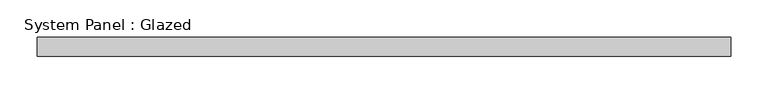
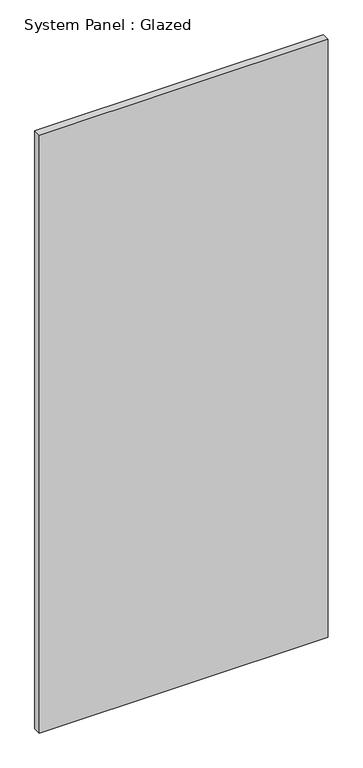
"""IFC4 building model written with IfcOpenShell, lengths in millimetres: plate geometry, System Panel : Glazed."""

from ifc_helpers import new_model, si_unit, origin, origin_with_axes, place, context, project, spatial, polyline, outline, extrude, source, transform, mapped, element, save


def system_panel_glazed_944eb72a(model_context):
    return source(origin(), model_context, "Body", "SweptSolid", [
        extrude(outline(polyline([(462.5, 24.5), (-462.5, 24.5), (-462.5, 49.5), (462.5, 49.5), (462.5, 24.5)])), origin_with_axes(), (0.0, 0.0, 1.0), 2025.0),
    ])


if __name__ == "__main__":
    model = new_model("IFC4")
    model_context = context("Model", 3, world=origin())
    ifc_project = project(units=[si_unit("LENGTHUNIT", "METRE", prefix="MILLI")], contexts=[model_context])
    site = spatial("IfcSite", under=ifc_project)
    building = spatial("IfcBuilding", under=site)
    placement = place(None, origin())
    system_panel_glazed_shape = system_panel_glazed_944eb72a(model_context)
    element("IfcPlate", 1, ObjectType="System Panel : Glazed", at=placement, inside=building, context=model_context, shape_type="MappedRepresentation", body=[
        mapped(system_panel_glazed_shape, transform((0.0, 0.0, 0.0), x_axis=(1.0, 0.0, 0.0), y_axis=(0.0, 1.0, 0.0), z_axis=(0.0, 0.0, 1.0))),
    ])
    save(model, "model.ifc")
